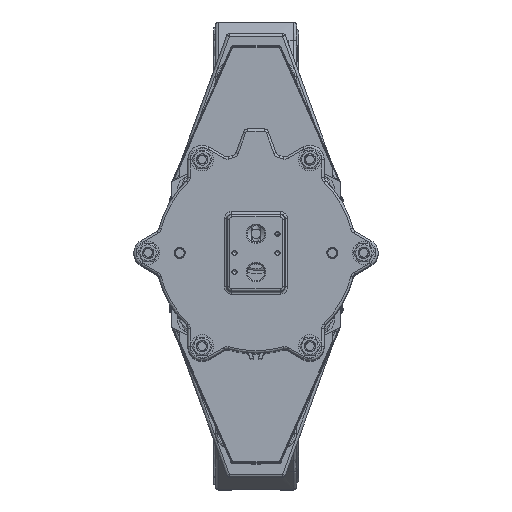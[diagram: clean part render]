
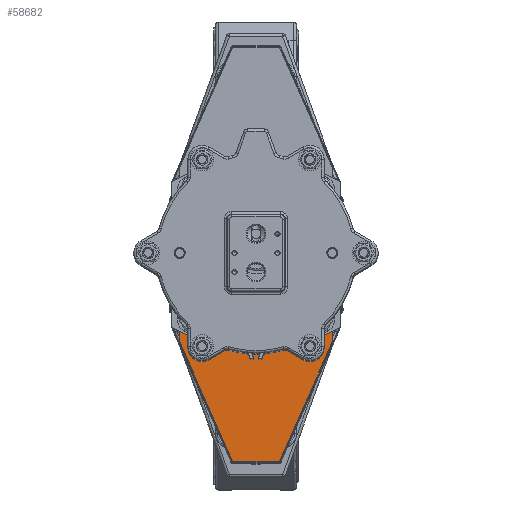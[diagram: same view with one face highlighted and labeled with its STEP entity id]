
A CAD part, top view. The second image highlights one B-rep face of the part: STEP entity #58682.
In plain terms, the highlighted planar face has unit normal (0, 0, 1).
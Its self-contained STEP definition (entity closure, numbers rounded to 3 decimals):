
#2781=PLANE('',#64582);
#7524=FACE_OUTER_BOUND('',#11518,.T.);
#11518=EDGE_LOOP('',(#49885,#49886,#49887,#49888,#49889,#49890,#49891,#49892,
#49893,#49894));
#18816=LINE('',#101352,#22310);
#18819=LINE('',#101357,#22313);
#18822=LINE('',#101363,#22316);
#18824=LINE('',#101367,#22318);
#18827=LINE('',#101373,#22321);
#18829=LINE('',#101377,#22323);
#19125=LINE('',#102503,#22619);
#19556=LINE('',#105281,#23050);
#19557=LINE('',#105283,#23051);
#19558=LINE('',#105284,#23052);
#22310=VECTOR('',#76273,10.);
#22313=VECTOR('',#76278,10.);
#22316=VECTOR('',#76283,10.);
#22318=VECTOR('',#76285,10.);
#22321=VECTOR('',#76290,10.);
#22323=VECTOR('',#76294,10.);
#22619=VECTOR('',#77186,10.);
#23050=VECTOR('',#79135,10.);
#23051=VECTOR('',#79136,10.);
#23052=VECTOR('',#79137,10.);
#26737=VERTEX_POINT('',#101350);
#26738=VERTEX_POINT('',#101351);
#26739=VERTEX_POINT('',#101356);
#26741=VERTEX_POINT('',#101361);
#26742=VERTEX_POINT('',#101364);
#26743=VERTEX_POINT('',#101366);
#26745=VERTEX_POINT('',#101372);
#26746=VERTEX_POINT('',#101376);
#27666=VERTEX_POINT('',#105280);
#27667=VERTEX_POINT('',#105282);
#33864=EDGE_CURVE('',#26737,#26738,#18816,.T.);
#33867=EDGE_CURVE('',#26739,#26737,#18819,.T.);
#33870=EDGE_CURVE('',#26741,#26739,#18822,.T.);
#33872=EDGE_CURVE('',#26742,#26743,#18824,.T.);
#33875=EDGE_CURVE('',#26745,#26742,#18827,.T.);
#33877=EDGE_CURVE('',#26746,#26745,#18829,.T.);
#34441=EDGE_CURVE('',#26738,#26746,#19125,.T.);
#35290=EDGE_CURVE('',#26741,#27666,#19556,.T.);
#35291=EDGE_CURVE('',#27666,#27667,#19557,.T.);
#35292=EDGE_CURVE('',#27667,#26743,#19558,.T.);
#49885=ORIENTED_EDGE('',*,*,#35290,.T.);
#49886=ORIENTED_EDGE('',*,*,#35291,.T.);
#49887=ORIENTED_EDGE('',*,*,#35292,.T.);
#49888=ORIENTED_EDGE('',*,*,#33872,.F.);
#49889=ORIENTED_EDGE('',*,*,#33875,.F.);
#49890=ORIENTED_EDGE('',*,*,#33877,.F.);
#49891=ORIENTED_EDGE('',*,*,#34441,.F.);
#49892=ORIENTED_EDGE('',*,*,#33864,.F.);
#49893=ORIENTED_EDGE('',*,*,#33867,.F.);
#49894=ORIENTED_EDGE('',*,*,#33870,.F.);
#58682=ADVANCED_FACE('',(#7524),#2781,.T.);
#64582=AXIS2_PLACEMENT_3D('',#105279,#79133,#79134);
#76273=DIRECTION('',(-0.404,-0.915,0.));
#76278=DIRECTION('',(0.,-1.,0.));
#76283=DIRECTION('',(1.,0.,0.));
#76285=DIRECTION('',(1.,0.,0.));
#76290=DIRECTION('',(0.,1.,0.));
#76294=DIRECTION('',(-0.404,0.915,0.));
#77186=DIRECTION('',(-1.,0.,0.));
#79133=DIRECTION('center_axis',(0.,0.,
1.));
#79134=DIRECTION('ref_axis',(0.,1.,0.));
#79135=DIRECTION('',(-0.906,-0.423,0.));
#79136=DIRECTION('',(-1.,0.,0.));
#79137=DIRECTION('',(-0.906,0.423,0.));
#101350=CARTESIAN_POINT('',(80.,-91.467,910.4));
#101351=CARTESIAN_POINT('',(24.544,-217.204,910.4));
#101352=CARTESIAN_POINT('',(24.544,-217.204,910.4));
#101356=CARTESIAN_POINT('',(80.,-80.904,910.4));
#101357=CARTESIAN_POINT('',(80.,-91.467,910.4));
#101361=CARTESIAN_POINT('',(79.063,-80.904,910.4));
#101363=CARTESIAN_POINT('',(80.,-80.904,910.4));
#101364=CARTESIAN_POINT('',(-80.,-80.904,910.4));
#101366=CARTESIAN_POINT('',(-79.063,-80.904,910.4));
#101367=CARTESIAN_POINT('',(80.,-80.904,910.4));
#101372=CARTESIAN_POINT('',(-80.,-91.467,910.4));
#101373=CARTESIAN_POINT('',(-80.,-80.904,910.4));
#101376=CARTESIAN_POINT('',(-24.544,-217.204,910.4));
#101377=CARTESIAN_POINT('',(-80.,-91.467,910.4));
#102503=CARTESIAN_POINT('',(-24.544,-217.204,910.4));
#105279=CARTESIAN_POINT('Origin',(0.,-134.332,
910.4));
#105280=CARTESIAN_POINT('',(73.5,-83.5,910.4));
#105281=CARTESIAN_POINT('',(33.582,-102.128,910.4));
#105282=CARTESIAN_POINT('',(-73.5,-83.5,910.4));
#105283=CARTESIAN_POINT('',(-36.75,-83.5,910.4));
#105284=CARTESIAN_POINT('',(-41.082,-98.628,910.4));
